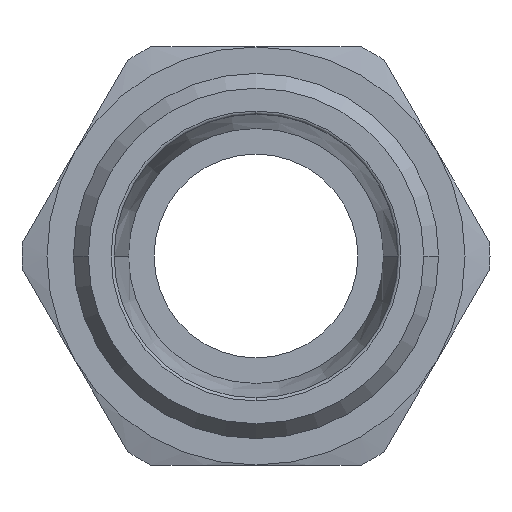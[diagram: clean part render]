
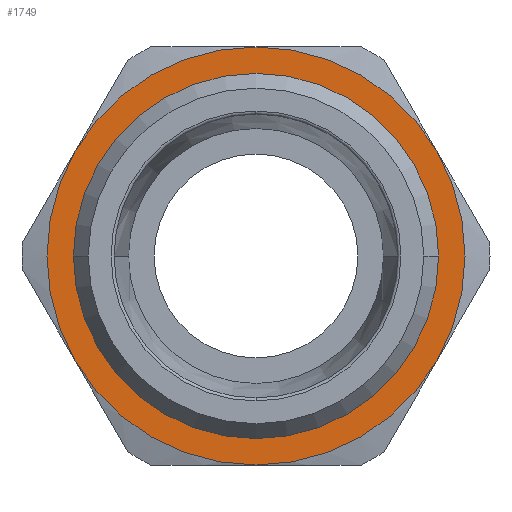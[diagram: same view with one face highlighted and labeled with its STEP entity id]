
A CAD part, left-side view. The second image highlights one B-rep face of the part: STEP entity #1749.
In plain terms, the highlighted planar face has unit normal (-1, 0, 0) as drawn and (0, 0, 1) by its records, which use the part's own axes.
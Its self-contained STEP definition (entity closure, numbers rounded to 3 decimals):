
#857=CARTESIAN_POINT('',(-17.65,0.,7.0));
#858=VERTEX_POINT('',#857);
#884=CARTESIAN_POINT('',(17.65,0.,7.0));
#885=VERTEX_POINT('',#884);
#893=CARTESIAN_POINT('',(0.,0.0,7.0));
#894=DIRECTION('',(0.0,0.0,1.0));
#895=DIRECTION('',(-1.0,0.0,0.0));
#896=AXIS2_PLACEMENT_3D('',#893,#894,#895);
#897=CIRCLE('',#896,17.65);
#898=EDGE_CURVE('',#885,#858,#897,.T.);
#1629=CARTESIAN_POINT('',(0.,-17.65,7.));
#1630=VERTEX_POINT('',#1629);
#1631=CARTESIAN_POINT('',(0.,0.0,7.0));
#1632=DIRECTION('',(0.0,0.0,1.0));
#1633=DIRECTION('',(-1.0,0.0,0.0));
#1634=AXIS2_PLACEMENT_3D('',#1631,#1632,#1633);
#1635=CIRCLE('',#1634,17.65);
#1636=EDGE_CURVE('',#858,#1630,#1635,.T.);
#1638=CARTESIAN_POINT('',(0.,0.0,7.0));
#1639=DIRECTION('',(0.0,0.0,1.0));
#1640=DIRECTION('',(-1.0,0.0,0.0));
#1641=AXIS2_PLACEMENT_3D('',#1638,#1639,#1640);
#1642=CIRCLE('',#1641,17.65);
#1643=EDGE_CURVE('',#1630,#885,#1642,.T.);
#1683=CARTESIAN_POINT('',(0.,0.,7.0));
#1684=DIRECTION('',(0.0,0.0,1.0));
#1685=DIRECTION('',(1.0,0.0,0.0));
#1686=AXIS2_PLACEMENT_3D('',#1683,#1684,#1685);
#1687=PLANE('',#1686);
#1688=CARTESIAN_POINT('',(10.25,-17.754,7.0));
#1689=VERTEX_POINT('',#1688);
#1690=CARTESIAN_POINT('',(20.5,0.0,7.0));
#1691=VERTEX_POINT('',#1690);
#1692=CARTESIAN_POINT('',(0.,0.0,7.0));
#1693=DIRECTION('',(0.0,0.0,1.0));
#1694=DIRECTION('',(1.0,0.0,0.0));
#1695=AXIS2_PLACEMENT_3D('',#1692,#1693,#1694);
#1696=CIRCLE('',#1695,20.5);
#1697=EDGE_CURVE('',#1689,#1691,#1696,.T.);
#1698=ORIENTED_EDGE('',*,*,#1697,.T.);
#1699=CARTESIAN_POINT('',(10.25,17.754,7.0));
#1700=VERTEX_POINT('',#1699);
#1701=CARTESIAN_POINT('',(0.,0.0,7.0));
#1702=DIRECTION('',(0.0,0.0,1.0));
#1703=DIRECTION('',(1.0,0.0,0.0));
#1704=AXIS2_PLACEMENT_3D('',#1701,#1702,#1703);
#1705=CIRCLE('',#1704,20.5);
#1706=EDGE_CURVE('',#1691,#1700,#1705,.T.);
#1707=ORIENTED_EDGE('',*,*,#1706,.T.);
#1708=CARTESIAN_POINT('',(-10.25,17.754,7.0));
#1709=VERTEX_POINT('',#1708);
#1710=CARTESIAN_POINT('',(0.,0.0,7.0));
#1711=DIRECTION('',(0.0,0.0,1.0));
#1712=DIRECTION('',(1.0,0.0,0.0));
#1713=AXIS2_PLACEMENT_3D('',#1710,#1711,#1712);
#1714=CIRCLE('',#1713,20.5);
#1715=EDGE_CURVE('',#1700,#1709,#1714,.T.);
#1716=ORIENTED_EDGE('',*,*,#1715,.T.);
#1717=CARTESIAN_POINT('',(-20.5,0.,7.0));
#1718=VERTEX_POINT('',#1717);
#1719=CARTESIAN_POINT('',(0.,0.0,7.0));
#1720=DIRECTION('',(0.0,0.0,1.0));
#1721=DIRECTION('',(1.0,0.0,0.0));
#1722=AXIS2_PLACEMENT_3D('',#1719,#1720,#1721);
#1723=CIRCLE('',#1722,20.5);
#1724=EDGE_CURVE('',#1709,#1718,#1723,.T.);
#1725=ORIENTED_EDGE('',*,*,#1724,.T.);
#1726=CARTESIAN_POINT('',(-10.25,-17.754,7.0));
#1727=VERTEX_POINT('',#1726);
#1728=CARTESIAN_POINT('',(0.,0.0,7.0));
#1729=DIRECTION('',(0.0,0.0,1.0));
#1730=DIRECTION('',(1.0,0.0,0.0));
#1731=AXIS2_PLACEMENT_3D('',#1728,#1729,#1730);
#1732=CIRCLE('',#1731,20.5);
#1733=EDGE_CURVE('',#1718,#1727,#1732,.T.);
#1734=ORIENTED_EDGE('',*,*,#1733,.T.);
#1735=CARTESIAN_POINT('',(0.,0.0,7.0));
#1736=DIRECTION('',(0.0,0.0,1.0));
#1737=DIRECTION('',(1.0,0.0,0.0));
#1738=AXIS2_PLACEMENT_3D('',#1735,#1736,#1737);
#1739=CIRCLE('',#1738,20.5);
#1740=EDGE_CURVE('',#1727,#1689,#1739,.T.);
#1741=ORIENTED_EDGE('',*,*,#1740,.T.);
#1742=EDGE_LOOP('',(#1698,#1707,#1716,#1725,#1734,#1741));
#1743=FACE_OUTER_BOUND('',#1742,.T.);
#1744=ORIENTED_EDGE('',*,*,#1643,.F.);
#1745=ORIENTED_EDGE('',*,*,#1636,.F.);
#1746=ORIENTED_EDGE('',*,*,#898,.F.);
#1747=EDGE_LOOP('',(#1744,#1745,#1746));
#1748=FACE_BOUND('',#1747,.T.);
#1749=ADVANCED_FACE('',(#1743,#1748),#1687,.T.);
